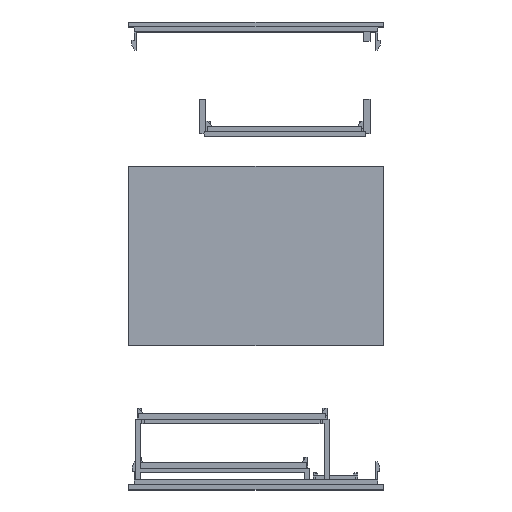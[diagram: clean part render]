
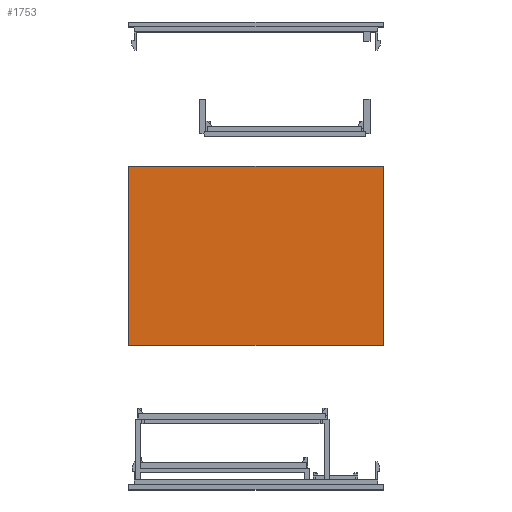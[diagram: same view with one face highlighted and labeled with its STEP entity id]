
A CAD part, top view. The second image highlights one B-rep face of the part: STEP entity #1753.
In plain terms, the highlighted planar face has unit normal (0, 0, 1).
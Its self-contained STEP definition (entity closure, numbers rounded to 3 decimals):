
#62 = VERTEX_POINT('',#63);
#63 = CARTESIAN_POINT('',(0.,3.,100.));
#70 = PLANE('',#71);
#71 = AXIS2_PLACEMENT_3D('',#72,#73,#74);
#72 = CARTESIAN_POINT('',(0.,3.,0.));
#73 = DIRECTION('',(1.,0.,0.));
#74 = DIRECTION('',(0.,0.,1.));
#82 = PLANE('',#83);
#83 = AXIS2_PLACEMENT_3D('',#84,#85,#86);
#84 = CARTESIAN_POINT('',(0.,3.,0.));
#85 = DIRECTION('',(0.,1.,0.));
#86 = DIRECTION('',(0.,0.,1.));
#123 = VERTEX_POINT('',#124);
#124 = CARTESIAN_POINT('',(0.,112.,100.));
#138 = PLANE('',#139);
#139 = AXIS2_PLACEMENT_3D('',#140,#141,#142);
#140 = CARTESIAN_POINT('',(0.,112.,0.));
#141 = DIRECTION('',(0.,1.,0.));
#142 = DIRECTION('',(0.,0.,1.));
#150 = EDGE_CURVE('',#62,#123,#151,.T.);
#151 = SURFACE_CURVE('',#152,(#156,#163),.PCURVE_S1.);
#152 = LINE('',#153,#154);
#153 = CARTESIAN_POINT('',(0.,3.,100.));
#154 = VECTOR('',#155,1.);
#155 = DIRECTION('',(0.,1.,0.));
#156 = PCURVE('',#70,#157);
#157 = DEFINITIONAL_REPRESENTATION('',(#158),#162);
#158 = LINE('',#159,#160);
#159 = CARTESIAN_POINT('',(100.,0.));
#160 = VECTOR('',#161,1.);
#161 = DIRECTION('',(0.,-1.));
#162 = ( GEOMETRIC_REPRESENTATION_CONTEXT(2) 
PARAMETRIC_REPRESENTATION_CONTEXT() REPRESENTATION_CONTEXT('2D SPACE',''
  ) );
#163 = PCURVE('',#164,#169);
#164 = PLANE('',#165);
#165 = AXIS2_PLACEMENT_3D('',#166,#167,#168);
#166 = CARTESIAN_POINT('',(0.,3.,100.));
#167 = DIRECTION('',(0.,0.,1.));
#168 = DIRECTION('',(1.,0.,0.));
#169 = DEFINITIONAL_REPRESENTATION('',(#170),#174);
#170 = LINE('',#171,#172);
#171 = CARTESIAN_POINT('',(0.,0.));
#172 = VECTOR('',#173,1.);
#173 = DIRECTION('',(0.,1.));
#174 = ( GEOMETRIC_REPRESENTATION_CONTEXT(2) 
PARAMETRIC_REPRESENTATION_CONTEXT() REPRESENTATION_CONTEXT('2D SPACE',''
  ) );
#1591 = EDGE_CURVE('',#62,#1592,#1594,.T.);
#1592 = VERTEX_POINT('',#1593);
#1593 = CARTESIAN_POINT('',(155.,3.,100.));
#1594 = SURFACE_CURVE('',#1595,(#1599,#1606),.PCURVE_S1.);
#1595 = LINE('',#1596,#1597);
#1596 = CARTESIAN_POINT('',(0.,3.,100.));
#1597 = VECTOR('',#1598,1.);
#1598 = DIRECTION('',(1.,0.,0.));
#1599 = PCURVE('',#82,#1600);
#1600 = DEFINITIONAL_REPRESENTATION('',(#1601),#1605);
#1601 = LINE('',#1602,#1603);
#1602 = CARTESIAN_POINT('',(100.,0.));
#1603 = VECTOR('',#1604,1.);
#1604 = DIRECTION('',(0.,1.));
#1605 = ( GEOMETRIC_REPRESENTATION_CONTEXT(2) 
PARAMETRIC_REPRESENTATION_CONTEXT() REPRESENTATION_CONTEXT('2D SPACE',''
  ) );
#1606 = PCURVE('',#164,#1607);
#1607 = DEFINITIONAL_REPRESENTATION('',(#1608),#1612);
#1608 = LINE('',#1609,#1610);
#1609 = CARTESIAN_POINT('',(0.,0.));
#1610 = VECTOR('',#1611,1.);
#1611 = DIRECTION('',(1.,0.));
#1612 = ( GEOMETRIC_REPRESENTATION_CONTEXT(2) 
PARAMETRIC_REPRESENTATION_CONTEXT() REPRESENTATION_CONTEXT('2D SPACE',''
  ) );
#1628 = PLANE('',#1629);
#1629 = AXIS2_PLACEMENT_3D('',#1630,#1631,#1632);
#1630 = CARTESIAN_POINT('',(155.,3.,0.));
#1631 = DIRECTION('',(1.,0.,0.));
#1632 = DIRECTION('',(0.,0.,1.));
#1753 = ADVANCED_FACE('',(#1754),#164,.T.);
#1754 = FACE_BOUND('',#1755,.T.);
#1755 = EDGE_LOOP('',(#1756,#1757,#1758,#1781));
#1756 = ORIENTED_EDGE('',*,*,#150,.F.);
#1757 = ORIENTED_EDGE('',*,*,#1591,.T.);
#1758 = ORIENTED_EDGE('',*,*,#1759,.T.);
#1759 = EDGE_CURVE('',#1592,#1760,#1762,.T.);
#1760 = VERTEX_POINT('',#1761);
#1761 = CARTESIAN_POINT('',(155.,112.,100.));
#1762 = SURFACE_CURVE('',#1763,(#1767,#1774),.PCURVE_S1.);
#1763 = LINE('',#1764,#1765);
#1764 = CARTESIAN_POINT('',(155.,3.,100.));
#1765 = VECTOR('',#1766,1.);
#1766 = DIRECTION('',(0.,1.,0.));
#1767 = PCURVE('',#164,#1768);
#1768 = DEFINITIONAL_REPRESENTATION('',(#1769),#1773);
#1769 = LINE('',#1770,#1771);
#1770 = CARTESIAN_POINT('',(155.,0.));
#1771 = VECTOR('',#1772,1.);
#1772 = DIRECTION('',(0.,1.));
#1773 = ( GEOMETRIC_REPRESENTATION_CONTEXT(2) 
PARAMETRIC_REPRESENTATION_CONTEXT() REPRESENTATION_CONTEXT('2D SPACE',''
  ) );
#1774 = PCURVE('',#1628,#1775);
#1775 = DEFINITIONAL_REPRESENTATION('',(#1776),#1780);
#1776 = LINE('',#1777,#1778);
#1777 = CARTESIAN_POINT('',(100.,0.));
#1778 = VECTOR('',#1779,1.);
#1779 = DIRECTION('',(0.,-1.));
#1780 = ( GEOMETRIC_REPRESENTATION_CONTEXT(2) 
PARAMETRIC_REPRESENTATION_CONTEXT() REPRESENTATION_CONTEXT('2D SPACE',''
  ) );
#1781 = ORIENTED_EDGE('',*,*,#1782,.F.);
#1782 = EDGE_CURVE('',#123,#1760,#1783,.T.);
#1783 = SURFACE_CURVE('',#1784,(#1788,#1795),.PCURVE_S1.);
#1784 = LINE('',#1785,#1786);
#1785 = CARTESIAN_POINT('',(0.,112.,100.));
#1786 = VECTOR('',#1787,1.);
#1787 = DIRECTION('',(1.,0.,0.));
#1788 = PCURVE('',#164,#1789);
#1789 = DEFINITIONAL_REPRESENTATION('',(#1790),#1794);
#1790 = LINE('',#1791,#1792);
#1791 = CARTESIAN_POINT('',(0.,109.));
#1792 = VECTOR('',#1793,1.);
#1793 = DIRECTION('',(1.,0.));
#1794 = ( GEOMETRIC_REPRESENTATION_CONTEXT(2) 
PARAMETRIC_REPRESENTATION_CONTEXT() REPRESENTATION_CONTEXT('2D SPACE',''
  ) );
#1795 = PCURVE('',#138,#1796);
#1796 = DEFINITIONAL_REPRESENTATION('',(#1797),#1801);
#1797 = LINE('',#1798,#1799);
#1798 = CARTESIAN_POINT('',(100.,0.));
#1799 = VECTOR('',#1800,1.);
#1800 = DIRECTION('',(0.,1.));
#1801 = ( GEOMETRIC_REPRESENTATION_CONTEXT(2) 
PARAMETRIC_REPRESENTATION_CONTEXT() REPRESENTATION_CONTEXT('2D SPACE',''
  ) );
